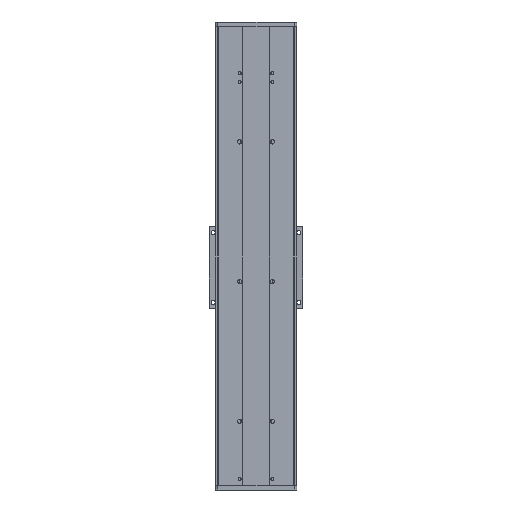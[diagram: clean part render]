
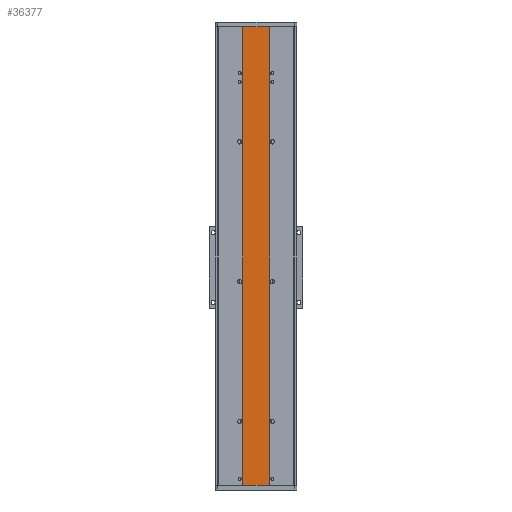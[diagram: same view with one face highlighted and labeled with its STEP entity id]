
A CAD part, front view. The second image highlights one B-rep face of the part: STEP entity #36377.
In plain terms, the highlighted planar face has unit normal (0, -1, 0).
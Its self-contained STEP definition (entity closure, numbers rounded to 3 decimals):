
#1231 = ORIENTED_EDGE ( 'NONE', *, *, #19317, .T. ) ;
#1744 = CARTESIAN_POINT ( 'NONE',  ( 58.27, -78.814, 1645. ) ) ;
#3346 = CARTESIAN_POINT ( 'NONE',  ( 1.27, -78.814, 1645. ) ) ;
#5849 = DIRECTION ( 'NONE',  ( 1., 0., 0. ) ) ;
#6051 = VERTEX_POINT ( 'NONE', #31761 ) ;
#7231 = PLANE ( 'NONE',  #13030 ) ;
#7341 = ORIENTED_EDGE ( 'NONE', *, *, #9942, .T. ) ;
#7407 = DIRECTION ( 'NONE',  ( 0., 0., -1. ) ) ;
#9942 = EDGE_CURVE ( 'NONE', #6051, #49750, #24594, .T. ) ;
#10677 = EDGE_CURVE ( 'NONE', #49166, #49750, #44706, .T. ) ;
#11518 = CARTESIAN_POINT ( 'NONE',  ( 1.27, -78.814, 1645. ) ) ;
#13030 = AXIS2_PLACEMENT_3D ( 'NONE', #3346, #31528, #7407 ) ;
#15587 = DIRECTION ( 'NONE',  ( 0., 0., -1. ) ) ;
#19317 = EDGE_CURVE ( 'NONE', #32896, #6051, #43454, .T. ) ;
#19728 = CARTESIAN_POINT ( 'NONE',  ( 58.27, -78.814, 0. ) ) ;
#21729 = FACE_OUTER_BOUND ( 'NONE', #40430, .T. ) ;
#22631 = CARTESIAN_POINT ( 'NONE',  ( 0., -78.814, 985. ) ) ;
#23287 = VECTOR ( 'NONE', #33984, 1000. ) ;
#24426 = EDGE_CURVE ( 'NONE', #32896, #49166, #43174, .T. ) ;
#24594 = LINE ( 'NONE', #41797, #35300 ) ;
#30727 = DIRECTION ( 'NONE',  ( 1., 0., 0. ) ) ;
#31528 = DIRECTION ( 'NONE',  ( 0., -1., 0. ) ) ;
#31761 = CARTESIAN_POINT ( 'NONE',  ( 1.27, -78.814, 0. ) ) ;
#32418 = VECTOR ( 'NONE', #30727, 1000. ) ;
#32896 = VERTEX_POINT ( 'NONE', #46259 ) ;
#33984 = DIRECTION ( 'NONE',  ( 0., 0., -1. ) ) ;
#34878 = CARTESIAN_POINT ( 'NONE',  ( 58.27, -78.814, 985. ) ) ;
#35300 = VECTOR ( 'NONE', #5849, 1000. ) ;
#36377 = ADVANCED_FACE ( 'NONE', ( #21729 ), #7231, .T. ) ;
#37904 = ORIENTED_EDGE ( 'NONE', *, *, #10677, .F. ) ;
#40430 = EDGE_LOOP ( 'NONE', ( #1231, #7341, #37904, #49028 ) ) ;
#41797 = CARTESIAN_POINT ( 'NONE',  ( 0., -78.814, 0. ) ) ;
#42186 = VECTOR ( 'NONE', #15587, 1000. ) ;
#43174 = LINE ( 'NONE', #22631, #32418 ) ;
#43454 = LINE ( 'NONE', #11518, #42186 ) ;
#44706 = LINE ( 'NONE', #1744, #23287 ) ;
#46259 = CARTESIAN_POINT ( 'NONE',  ( 1.27, -78.814, 985. ) ) ;
#49028 = ORIENTED_EDGE ( 'NONE', *, *, #24426, .F. ) ;
#49166 = VERTEX_POINT ( 'NONE', #34878 ) ;
#49750 = VERTEX_POINT ( 'NONE', #19728 ) ;
